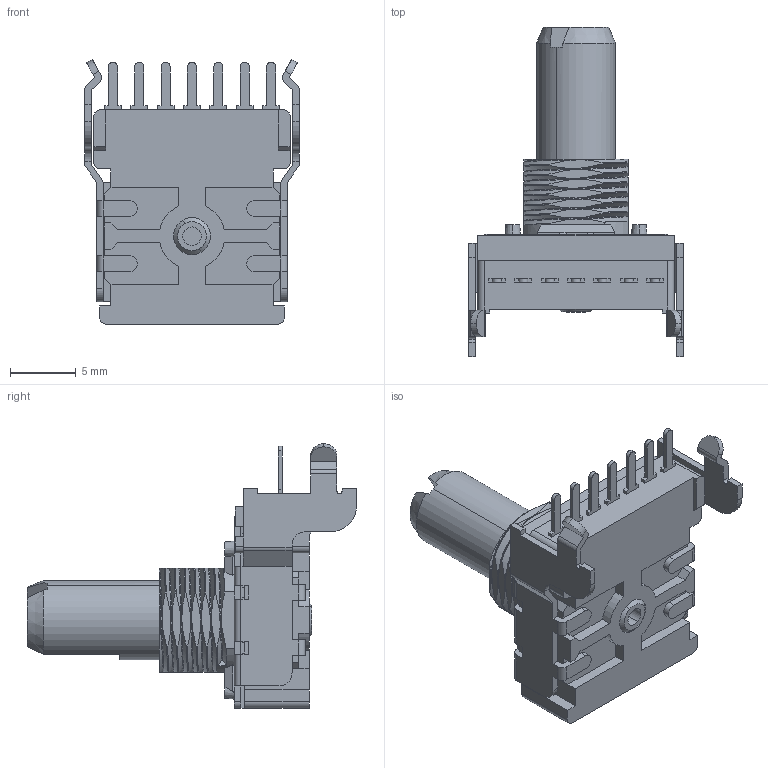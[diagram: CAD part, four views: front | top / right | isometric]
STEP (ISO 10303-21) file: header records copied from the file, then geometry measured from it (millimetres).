
FILE_DESCRIPTION (( 'STEP AP203' ), '1' );
FILE_NAME ('P140KV1-F15.STEP', '2026-09-14T18:53:57', ( '' ), ( '' ), 'SwSTEP 2.0', 'SolidWorks 2026', '' );
FILE_SCHEMA (( 'CONFIG_CONTROL_DESIGN' ));
Length unit declared in the file: millimetre
Products named in the file (8): KV_housing; H-terminal; 1-F15; P140KV1-F15; KV1 bracket; bushing; spring_plate; Housing
Assembly tree (13 placements, depth 3):
  P140KV1-F15
    KV_housing
      Housing
      H-terminal  x7
    1-F15
    spring_plate
    bushing
    KV1 bracket
Bounding box: 16.3 x 25 x 20.1 mm (x, y, z)
Volume: 1533.5 mm3; surface area: 3030.7 mm2
Topology: 12 solids, 12 shells, 701 faces, 1945 edges, 1268 vertices
Faces by surface type: plane 442, cylinder 179, bspline 61, cone 17, torus 2
Entity records: 34945 total; most frequent: CARTESIAN_POINT 17982, ORIENTED_EDGE 3602, DIRECTION 3004, EDGE_CURVE 1801, VERTEX_POINT 1172, LINE 1160, VECTOR 1160, AXIS2_PLACEMENT_3D 922
